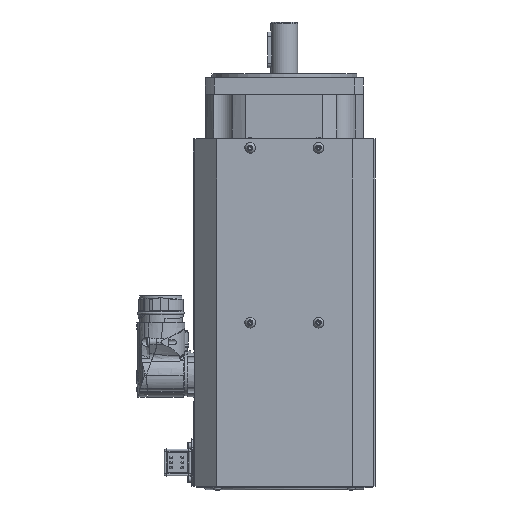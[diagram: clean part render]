
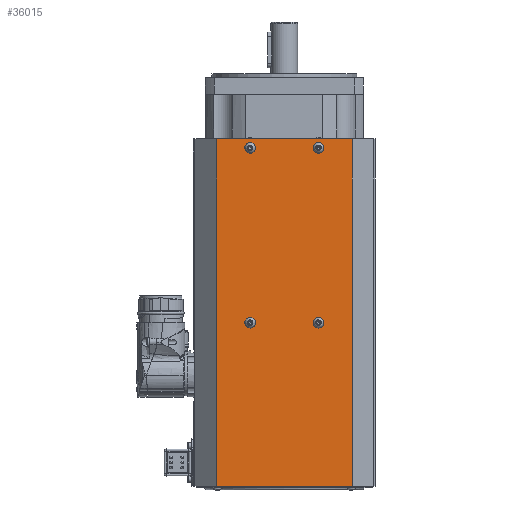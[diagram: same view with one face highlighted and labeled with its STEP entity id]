
A CAD part, left-side view. The second image highlights one B-rep face of the part: STEP entity #36015.
In plain terms, the highlighted planar face has unit normal (-1, 0, 0).
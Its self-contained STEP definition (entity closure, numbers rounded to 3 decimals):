
#4252=LINE('',#68582,#6184);
#4263=LINE('',#68601,#6195);
#4264=LINE('',#68603,#6196);
#4265=LINE('',#68604,#6197);
#6184=VECTOR('',#48691,312.);
#6195=VECTOR('',#48710,312.);
#6196=VECTOR('',#48713,121.6);
#6197=VECTOR('',#48714,121.6);
#8770=FACE_BOUND('',#13587,.T.);
#8771=FACE_BOUND('',#13588,.T.);
#8772=FACE_BOUND('',#13589,.T.);
#8773=FACE_BOUND('',#13590,.T.);
#8774=FACE_BOUND('',#13591,.T.);
#13587=EDGE_LOOP('',(#32316));
#13588=EDGE_LOOP('',(#32317));
#13589=EDGE_LOOP('',(#32318));
#13590=EDGE_LOOP('',(#32319));
#13591=EDGE_LOOP('',(#32320,#32321,#32322,#32323));
#15033=CIRCLE('',#39036,4.75);
#15047=CIRCLE('',#39071,4.75);
#15061=CIRCLE('',#39106,4.75);
#15075=CIRCLE('',#39141,4.75);
#18065=VERTEX_POINT('',#66691);
#18085=VERTEX_POINT('',#66776);
#18105=VERTEX_POINT('',#66861);
#18125=VERTEX_POINT('',#66946);
#18551=VERTEX_POINT('',#68579);
#18552=VERTEX_POINT('',#68581);
#18555=VERTEX_POINT('',#68597);
#18556=VERTEX_POINT('',#68599);
#22451=EDGE_CURVE('',#18065,#18065,#15033,.T.);
#22483=EDGE_CURVE('',#18085,#18085,#15047,.T.);
#22515=EDGE_CURVE('',#18105,#18105,#15061,.T.);
#22547=EDGE_CURVE('',#18125,#18125,#15075,.T.);
#23182=EDGE_CURVE('',#18551,#18552,#4252,.T.);
#23193=EDGE_CURVE('',#18555,#18556,#4263,.T.);
#23194=EDGE_CURVE('',#18555,#18551,#4264,.T.);
#23195=EDGE_CURVE('',#18556,#18552,#4265,.T.);
#32316=ORIENTED_EDGE('',*,*,#22451,.T.);
#32317=ORIENTED_EDGE('',*,*,#22483,.T.);
#32318=ORIENTED_EDGE('',*,*,#22515,.T.);
#32319=ORIENTED_EDGE('',*,*,#22547,.T.);
#32320=ORIENTED_EDGE('',*,*,#23194,.F.);
#32321=ORIENTED_EDGE('',*,*,#23193,.T.);
#32322=ORIENTED_EDGE('',*,*,#23195,.T.);
#32323=ORIENTED_EDGE('',*,*,#23182,.F.);
#33957=PLANE('',#39678);
#36015=ADVANCED_FACE('',(#8770,#8771,#8772,#8773,#8774),#33957,.T.);
#39036=AXIS2_PLACEMENT_3D('',#66692,#47024,#47025);
#39071=AXIS2_PLACEMENT_3D('',#66777,#47106,#47107);
#39106=AXIS2_PLACEMENT_3D('',#66862,#47188,#47189);
#39141=AXIS2_PLACEMENT_3D('',#66947,#47270,#47271);
#39678=AXIS2_PLACEMENT_3D('',#68602,#48711,#48712);
#47024=DIRECTION('center_axis',(1.,0.,0.));
#47025=DIRECTION('ref_axis',(0.,0.,-1.));
#47106=DIRECTION('center_axis',(1.,0.,0.));
#47107=DIRECTION('ref_axis',(0.,0.,-1.));
#47188=DIRECTION('center_axis',(1.,0.,0.));
#47189=DIRECTION('ref_axis',(0.,0.,-1.));
#47270=DIRECTION('center_axis',(1.,0.,0.));
#47271=DIRECTION('ref_axis',(0.,0.,-1.));
#48691=DIRECTION('',(0.,0.,-1.));
#48710=DIRECTION('',(0.,0.,-1.));
#48711=DIRECTION('center_axis',(-1.,0.,0.));
#48712=DIRECTION('ref_axis',(0.,1.,0.));
#48713=DIRECTION('',(0.,-1.,0.));
#48714=DIRECTION('',(0.,-1.,0.));
#66691=CARTESIAN_POINT('',(-80.2,-30.65,-200.25));
#66692=CARTESIAN_POINT('Origin',(-80.2,-30.65,-205.));
#66776=CARTESIAN_POINT('',(-80.2,30.65,-200.25));
#66777=CARTESIAN_POINT('Origin',(-80.2,30.65,-205.));
#66861=CARTESIAN_POINT('',(-80.2,-30.65,-43.25));
#66862=CARTESIAN_POINT('Origin',(-80.2,-30.65,-48.));
#66946=CARTESIAN_POINT('',(-80.2,30.65,-43.25));
#66947=CARTESIAN_POINT('Origin',(-80.2,30.65,-48.));
#68579=CARTESIAN_POINT('',(-80.2,-60.8,-40.));
#68581=CARTESIAN_POINT('',(-80.2,-60.8,-352.));
#68582=CARTESIAN_POINT('',(-80.2,-60.8,-40.));
#68597=CARTESIAN_POINT('',(-80.2,60.8,-40.));
#68599=CARTESIAN_POINT('',(-80.2,60.8,-352.));
#68601=CARTESIAN_POINT('',(-80.2,60.8,-40.));
#68602=CARTESIAN_POINT('Origin',(-80.2,0.,-40.));
#68603=CARTESIAN_POINT('',(-80.2,60.8,-40.));
#68604=CARTESIAN_POINT('',(-80.2,-60.8,-352.));
